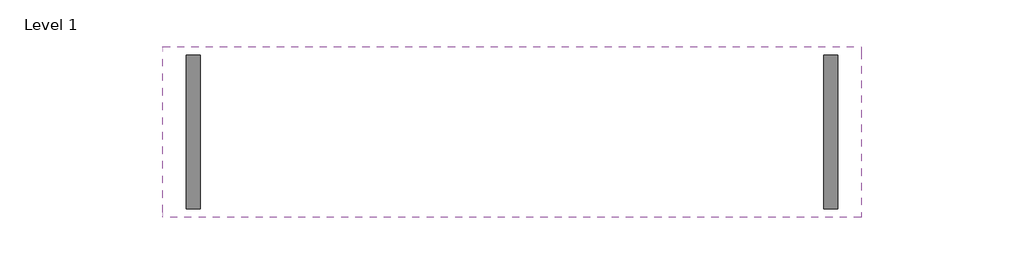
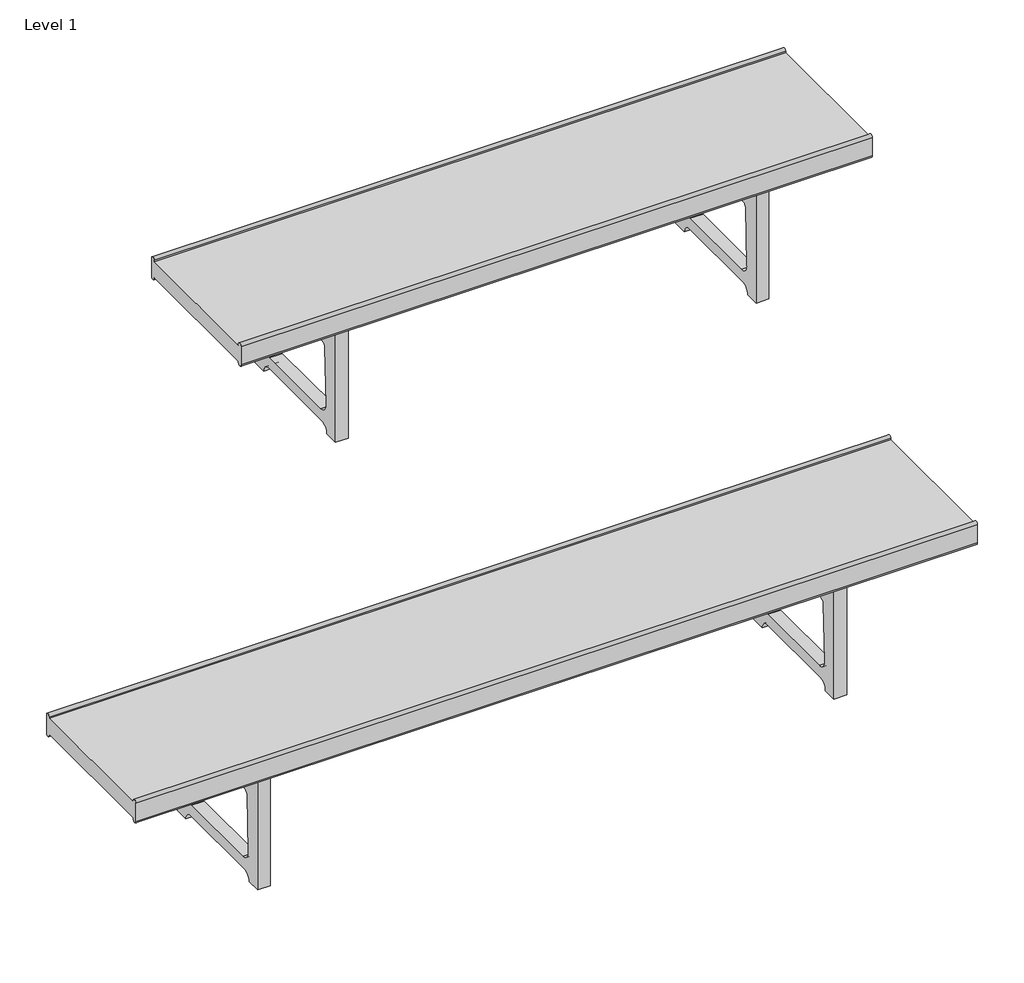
# One storey: 2 furniture elements.
"""IFC4 building model written with IfcOpenShell, lengths in millimetres."""

from ifc_helpers import new_model, si_unit, origin, place, context, project, spatial, transform, mapped, element, save
from components import furniture_33109094, furniture_7ae28927

model = new_model("IFC4")

# Units and contexts
model_context = context("Model", 3, world=origin())
ifc_project = project(units=[si_unit("LENGTHUNIT", "METRE", prefix="MILLI")], contexts=[model_context])

# Site, building, storey
site = spatial("IfcSite", under=ifc_project)
building = spatial("IfcBuilding", under=site)
storey = spatial("IfcBuildingStorey", under=building, Name="Level 1", Elevation=0.0)

# Furniture
placement = place(None, origin())
furniture_shape = furniture_33109094(model_context)
element("IfcFurniture", 1, ObjectType="Krobo 200 : Krobo 200", at=placement, inside=storey, context=model_context, shape_type="MappedRepresentation", body=[
    mapped(furniture_shape, transform((-1871.6316635, -589.7554969, 1163.941027), x_axis=(-1.000000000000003, 0.0, 0.0), y_axis=(0.0, -1.000000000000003, 0.0), z_axis=(0.0, 0.0, 1.0))),
])
furniture_2_shape = furniture_7ae28927(model_context)
element("IfcFurniture", 2, ObjectType="Krobo 150 : Krobo 150", at=placement, inside=storey, context=model_context, shape_type="MappedRepresentation", body=[
    mapped(furniture_2_shape, transform((-1871.6316635, -589.7554969, 2223.941027), x_axis=(-1.000000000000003, 0.0, 0.0), y_axis=(0.0, -1.000000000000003, 0.0), z_axis=(0.0, 0.0, 1.0))),
])

save(model, "model.ifc")
